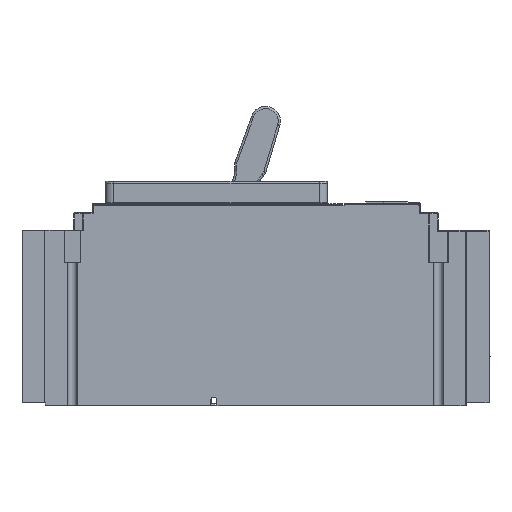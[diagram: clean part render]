
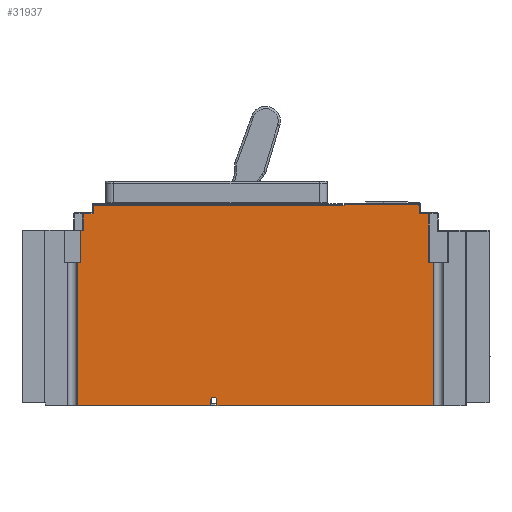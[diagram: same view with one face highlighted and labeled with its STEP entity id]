
A CAD part, left-side view. The second image highlights one B-rep face of the part: STEP entity #31937.
In plain terms, the highlighted planar face has unit normal (-1, 0, 0).
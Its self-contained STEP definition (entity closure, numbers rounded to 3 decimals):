
#839=DIRECTION('',(0.,-1.,0.));
#840=VECTOR('',#839,118.198);
#841=CARTESIAN_POINT('',(-0.008,148.75,0.));
#842=LINE('',#841,#840);
#1137=DIRECTION('',(0.,-1.,0.));
#1138=VECTOR('',#1137,72.713);
#1139=CARTESIAN_POINT('',(-0.001,224.963,0.));
#1140=LINE('',#1139,#1138);
#5579=DIRECTION('',(0.,1.,0.));
#5580=VECTOR('',#5579,1.35);
#5581=CARTESIAN_POINT('',(-0.002,221.659,95.5));
#5582=LINE('',#5581,#5580);
#8776=DIRECTION('',(0.,0.,1.));
#8777=VECTOR('',#8776,2.918);
#8778=CARTESIAN_POINT('',(-0.008,148.75,0.));
#8779=LINE('',#8778,#8777);
#8780=DIRECTION('',(0.,0.,1.));
#8781=VECTOR('',#8780,2.918);
#8782=CARTESIAN_POINT('',(-0.008,152.25,0.));
#8783=LINE('',#8782,#8781);
#8784=DIRECTION('',(0.,0.,1.));
#8785=VECTOR('',#8784,78.);
#8786=CARTESIAN_POINT('',(-0.001,224.963,0.));
#8787=LINE('',#8786,#8785);
#8788=DIRECTION('',(0.,-1.,0.));
#8789=VECTOR('',#8788,1.954);
#8790=CARTESIAN_POINT('',(-0.001,224.963,78.));
#8791=LINE('',#8790,#8789);
#8792=DIRECTION('',(0.,0.,1.));
#8793=VECTOR('',#8792,17.5);
#8794=CARTESIAN_POINT('',(-0.002,223.009,78.));
#8795=LINE('',#8794,#8793);
#8796=DIRECTION('',(0.,0.,-1.));
#8797=VECTOR('',#8796,9.);
#8798=CARTESIAN_POINT('',(-0.002,221.659,104.5));
#8799=LINE('',#8798,#8797);
#8800=DIRECTION('',(0.,0.,1.));
#8801=VECTOR('',#8800,4.5);
#8802=CARTESIAN_POINT('',(-0.002,216.216,104.5));
#8803=LINE('',#8802,#8801);
#8804=DIRECTION('',(0.,1.,0.));
#8805=VECTOR('',#8804,136.107);
#8806=CARTESIAN_POINT('',(-0.015,80.109,109.));
#8807=LINE('',#8806,#8805);
#8808=DIRECTION('',(0.,0.,1.));
#8809=VECTOR('',#8808,0.201);
#8810=CARTESIAN_POINT('',(-0.015,80.109,109.));
#8811=LINE('',#8810,#8809);
#8812=DIRECTION('',(0.,1.,0.));
#8813=VECTOR('',#8812,0.599);
#8814=CARTESIAN_POINT('',(-0.015,79.509,
109.201));
#8815=LINE('',#8814,#8813);
#8816=DIRECTION('',(0.,0.,-1.));
#8817=VECTOR('',#8816,0.299);
#8818=CARTESIAN_POINT('',(-0.015,79.509,109.5));
#8819=LINE('',#8818,#8817);
#8820=DIRECTION('',(0.,1.,0.));
#8821=VECTOR('',#8820,40.2);
#8822=CARTESIAN_POINT('',(-0.018,39.309,109.5));
#8823=LINE('',#8822,#8821);
#8824=CARTESIAN_POINT('',(-0.018,39.309,108.7));
#8825=DIRECTION('',(-1.,0.,0.));
#8826=DIRECTION('',(0.,-1.,0.));
#8827=AXIS2_PLACEMENT_3D('',#8824,#8825,#8826);
#8829=DIRECTION('',(0.,0.,1.));
#8830=VECTOR('',#8829,4.2);
#8831=CARTESIAN_POINT('',(-0.019,38.509,104.5));
#8832=LINE('',#8831,#8830);
#8833=DIRECTION('',(0.,1.,0.));
#8834=VECTOR('',#8833,5.151);
#8835=CARTESIAN_POINT('',(-0.019,33.359,104.5));
#8836=LINE('',#8835,#8834);
#8846=DIRECTION('',(0.,0.,1.));
#8847=VECTOR('',#8846,26.5);
#8848=CARTESIAN_POINT('',(-0.019,33.359,78.));
#8849=LINE('',#8848,#8847);
#12867=DIRECTION('',(0.,1.,0.));
#12868=VECTOR('',#12867,5.443);
#12869=CARTESIAN_POINT('',(-0.002,216.216,104.5));
#12870=LINE('',#12869,#12868);
#13327=CARTESIAN_POINT('',(-0.008,150.5,2.918));
#13328=DIRECTION('',(1.,0.,0.));
#13329=DIRECTION('',(0.,1.,0.));
#13330=AXIS2_PLACEMENT_3D('',#13327,#13328,#13329);
#13789=DIRECTION('',(0.,1.,0.));
#13790=VECTOR('',#13789,2.806);
#13791=CARTESIAN_POINT('',(-0.019,30.552,78.));
#13792=LINE('',#13791,#13790);
#13952=DIRECTION('',(0.,0.,1.));
#13953=VECTOR('',#13952,78.);
#13954=CARTESIAN_POINT('',(-0.019,30.552,0.));
#13955=LINE('',#13954,#13953);
#16782=CARTESIAN_POINT('',(-0.001,224.963,0.));
#16784=VERTEX_POINT('',#16782);
#16787=CARTESIAN_POINT('',(-0.019,30.552,0.));
#16789=VERTEX_POINT('',#16787);
#17623=CARTESIAN_POINT('',(-0.001,224.963,78.));
#17624=VERTEX_POINT('',#17623);
#17625=CARTESIAN_POINT('',(-0.002,223.009,78.));
#17626=VERTEX_POINT('',#17625);
#17627=CARTESIAN_POINT('',(-0.002,223.009,95.5));
#17628=VERTEX_POINT('',#17627);
#18530=CARTESIAN_POINT('',(-0.019,30.552,78.));
#18532=VERTEX_POINT('',#18530);
#18718=CARTESIAN_POINT('',(-0.008,148.75,0.));
#18720=VERTEX_POINT('',#18718);
#18726=CARTESIAN_POINT('',(-0.008,152.25,0.));
#18728=VERTEX_POINT('',#18726);
#18734=CARTESIAN_POINT('',(-0.008,148.75,2.918));
#18735=VERTEX_POINT('',#18734);
#18736=CARTESIAN_POINT('',(-0.008,152.25,2.918));
#18737=VERTEX_POINT('',#18736);
#20446=CARTESIAN_POINT('',(-0.015,79.509,
109.201));
#20448=VERTEX_POINT('',#20446);
#20688=CARTESIAN_POINT('',(-0.015,80.109,
109.201));
#20689=VERTEX_POINT('',#20688);
#20690=CARTESIAN_POINT('',(-0.015,80.109,109.));
#20691=VERTEX_POINT('',#20690);
#21033=CARTESIAN_POINT('',(-0.002,221.659,104.5));
#21034=CARTESIAN_POINT('',(-0.002,221.659,95.5));
#21035=VERTEX_POINT('',#21033);
#21036=VERTEX_POINT('',#21034);
#21095=CARTESIAN_POINT('',(-0.002,216.216,104.5));
#21096=CARTESIAN_POINT('',(-0.002,216.216,
109.));
#21097=VERTEX_POINT('',#21095);
#21098=VERTEX_POINT('',#21096);
#21201=CARTESIAN_POINT('',(-0.019,33.359,104.5));
#21202=CARTESIAN_POINT('',(-0.019,38.509,104.5));
#21203=VERTEX_POINT('',#21201);
#21204=VERTEX_POINT('',#21202);
#21205=CARTESIAN_POINT('',(-0.015,79.509,109.5));
#21207=VERTEX_POINT('',#21205);
#21211=CARTESIAN_POINT('',(-0.018,39.309,109.5));
#21212=VERTEX_POINT('',#21211);
#21213=CARTESIAN_POINT('',(-0.019,38.509,108.7));
#21214=VERTEX_POINT('',#21213);
#21307=CARTESIAN_POINT('',(-0.019,33.359,78.));
#21308=VERTEX_POINT('',#21307);
#31889=CARTESIAN_POINT('',(-0.001,224.963,0.));
#31890=DIRECTION('',(-1.,0.,0.));
#31891=DIRECTION('',(0.,-1.,0.));
#31892=AXIS2_PLACEMENT_3D('',#31889,#31890,#31891);
#31893=PLANE('',#31892);
#31895=ORIENTED_EDGE('',*,*,#31894,.F.);
#31897=ORIENTED_EDGE('',*,*,#31896,.F.);
#31899=ORIENTED_EDGE('',*,*,#31898,.F.);
#31900=ORIENTED_EDGE('',*,*,#22643,.F.);
#31902=ORIENTED_EDGE('',*,*,#31901,.T.);
#31904=ORIENTED_EDGE('',*,*,#31903,.F.);
#31906=ORIENTED_EDGE('',*,*,#31905,.F.);
#31907=ORIENTED_EDGE('',*,*,#22823,.F.);
#31909=ORIENTED_EDGE('',*,*,#31908,.T.);
#31910=ORIENTED_EDGE('',*,*,#31750,.T.);
#31911=ORIENTED_EDGE('',*,*,#31881,.T.);
#31912=ORIENTED_EDGE('',*,*,#28190,.F.);
#31914=ORIENTED_EDGE('',*,*,#31913,.F.);
#31916=ORIENTED_EDGE('',*,*,#31915,.F.);
#31918=ORIENTED_EDGE('',*,*,#31917,.T.);
#31920=ORIENTED_EDGE('',*,*,#31919,.F.);
#31922=ORIENTED_EDGE('',*,*,#31921,.T.);
#31924=ORIENTED_EDGE('',*,*,#31923,.F.);
#31926=ORIENTED_EDGE('',*,*,#31925,.F.);
#31928=ORIENTED_EDGE('',*,*,#31927,.F.);
#31930=ORIENTED_EDGE('',*,*,#31929,.F.);
#31932=ORIENTED_EDGE('',*,*,#31931,.F.);
#31934=ORIENTED_EDGE('',*,*,#31933,.F.);
#31935=EDGE_LOOP('',(#31895,#31897,#31899,#31900,#31902,#31904,#31906,#31907,
#31909,#31910,#31911,#31912,#31914,#31916,#31918,#31920,#31922,#31924,#31926,
#31928,#31930,#31932,#31934));
#31936=FACE_OUTER_BOUND('',#31935,.F.);
#31937=ADVANCED_FACE('',(#31936),#31893,.T.);
#8828=CIRCLE('',#8827,0.8);
#13331=CIRCLE('',#13330,1.75);
#22643=EDGE_CURVE('',#18720,#16789,#842,.T.);
#22823=EDGE_CURVE('',#16784,#18728,#1140,.T.);
#28190=EDGE_CURVE('',#21036,#17628,#5582,.T.);
#31750=EDGE_CURVE('',#17624,#17626,#8791,.T.);
#31881=EDGE_CURVE('',#17626,#17628,#8795,.T.);
#31894=EDGE_CURVE('',#21308,#21203,#8849,.T.);
#31896=EDGE_CURVE('',#18532,#21308,#13792,.T.);
#31898=EDGE_CURVE('',#16789,#18532,#13955,.T.);
#31901=EDGE_CURVE('',#18720,#18735,#8779,.T.);
#31903=EDGE_CURVE('',#18737,#18735,#13331,.T.);
#31905=EDGE_CURVE('',#18728,#18737,#8783,.T.);
#31908=EDGE_CURVE('',#16784,#17624,#8787,.T.);
#31913=EDGE_CURVE('',#21035,#21036,#8799,.T.);
#31915=EDGE_CURVE('',#21097,#21035,#12870,.T.);
#31917=EDGE_CURVE('',#21097,#21098,#8803,.T.);
#31919=EDGE_CURVE('',#20691,#21098,#8807,.T.);
#31921=EDGE_CURVE('',#20691,#20689,#8811,.T.);
#31923=EDGE_CURVE('',#20448,#20689,#8815,.T.);
#31925=EDGE_CURVE('',#21207,#20448,#8819,.T.);
#31927=EDGE_CURVE('',#21212,#21207,#8823,.T.);
#31929=EDGE_CURVE('',#21214,#21212,#8828,.T.);
#31931=EDGE_CURVE('',#21204,#21214,#8832,.T.);
#31933=EDGE_CURVE('',#21203,#21204,#8836,.T.);
